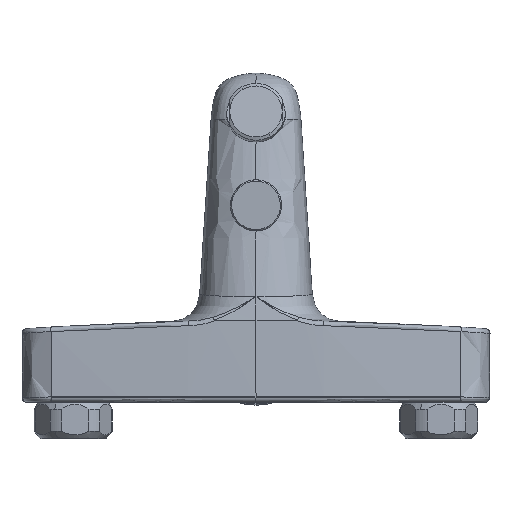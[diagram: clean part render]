
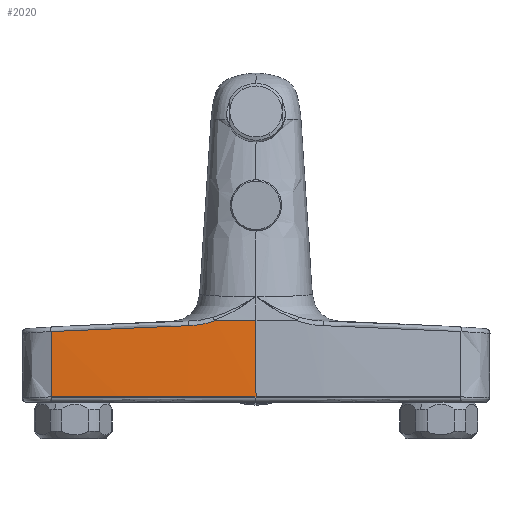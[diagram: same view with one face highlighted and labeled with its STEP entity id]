
A CAD part, front view. The second image highlights one B-rep face of the part: STEP entity #2020.
In plain terms, the highlighted conical face has half-angle 3.56 degrees and reference radius 871.868 mm.
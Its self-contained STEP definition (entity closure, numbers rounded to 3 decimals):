
#73 = EDGE_CURVE ( 'NONE', #29844, #8218, #19593, .T. ) ;
#834 = CARTESIAN_POINT ( 'NONE',  ( -5.501, -20.428, 79.563 ) ) ;
#1680 = CARTESIAN_POINT ( 'NONE',  ( -27.623, -20.172, 77.433 ) ) ;
#2020 = ADVANCED_FACE ( 'NONE', ( #7760 ), #5573, .T. ) ;
#2096 = CARTESIAN_POINT ( 'NONE',  ( 0., -22.368, 48.174 ) ) ;
#2352 = CARTESIAN_POINT ( 'NONE',  ( -25.784, -20.224, 77.47 ) ) ;
#2798 = AXIS2_PLACEMENT_3D ( 'NONE', #9360, #3683, #22981 ) ;
#3529 = CARTESIAN_POINT ( 'NONE',  ( -84.051, -17.381, 66.058 ) ) ;
#3683 = DIRECTION ( 'NONE',  ( 0., 0., -1. ) ) ;
#4485 = CARTESIAN_POINT ( 'NONE',  ( -65.281, -18.523, 76.256 ) ) ;
#5573 = CONICAL_SURFACE ( 'NONE', #2798, 871.868, 0.062 ) ;
#6367 = CARTESIAN_POINT ( 'NONE',  ( -84.002, -17.945, 57.109 ) ) ;
#7231 = CIRCLE ( 'NONE', #14004, 871.868 ) ;
#7760 = FACE_OUTER_BOUND ( 'NONE', #31600, .T. ) ;
#7894 = CARTESIAN_POINT ( 'NONE',  ( -20.429, -20.297, 78.362 ) ) ;
#8188 = DIRECTION ( 'NONE',  ( 0., 0., -1. ) ) ;
#8202 = CARTESIAN_POINT ( 'NONE',  ( 0., -20.416, 79.55 ) ) ;
#8218 = VERTEX_POINT ( 'NONE', #2096 ) ;
#8541 = B_SPLINE_CURVE_WITH_KNOTS ( 'NONE', 3,
 ( #29609, #3529, #6367, #25537 ),
 .UNSPECIFIED., .F., .F.,
 ( 4, 4 ),
 ( 0., 1. ),
 .UNSPECIFIED. ) ;
#9227 = B_SPLINE_CURVE_WITH_KNOTS ( 'NONE', 3,
 ( #21562, #32238, #24274, #7894, #26975, #10708, #29666, #13463, #32351, #16221, #35049, #18957, #2352, #21679 ),
 .UNSPECIFIED., .F., .F.,
 ( 4, 1, 1, 1, 1, 1, 1, 2, 2, 4 ),
 ( 0., 0.25, 0.375, 0.437, 0.469, 0.484, 0.492, 0.496, 0.5, 1. ),
 .UNSPECIFIED. ) ;
#9360 = CARTESIAN_POINT ( 'NONE',  ( -1.981, 849.498, 48.174 ) ) ;
#9440 = CARTESIAN_POINT ( 'NONE',  ( -16.505, -20.301, 79.48 ) ) ;
#10037 = CARTESIAN_POINT ( 'NONE',  ( -46.447, -19.64, 77.059 ) ) ;
#10629 = B_SPLINE_CURVE_WITH_KNOTS ( 'NONE', 3,
 ( #1680, #10037, #4485, #23741 ),
 .UNSPECIFIED., .F., .F.,
 ( 4, 4 ),
 ( 0., 1. ),
 .UNSPECIFIED. ) ;
#10708 = CARTESIAN_POINT ( 'NONE',  ( -21.6, -20.286, 78.111 ) ) ;
#11604 = B_SPLINE_CURVE_WITH_KNOTS ( 'NONE', 3,
 ( #11990, #834, #25757, #9440 ),
 .UNSPECIFIED., .F., .F.,
 ( 4, 4 ),
 ( 0., 1. ),
 .UNSPECIFIED. ) ;
#11990 = CARTESIAN_POINT ( 'NONE',  ( 0., -20.416, 79.55 ) ) ;
#12359 = CARTESIAN_POINT ( 'NONE',  ( -27.623, -20.172, 77.433 ) ) ;
#12589 = EDGE_CURVE ( 'NONE', #8218, #16844, #7231, .T. ) ;
#12642 = ORIENTED_EDGE ( 'NONE', *, *, #27753, .T. ) ;
#12673 = ORIENTED_EDGE ( 'NONE', *, *, #12589, .F. ) ;
#12708 = ORIENTED_EDGE ( 'NONE', *, *, #73, .F. ) ;
#12788 = ORIENTED_EDGE ( 'NONE', *, *, #30498, .T. ) ;
#12889 = ORIENTED_EDGE ( 'NONE', *, *, #17431, .T. ) ;
#12921 = ORIENTED_EDGE ( 'NONE', *, *, #18086, .T. ) ;
#13463 = CARTESIAN_POINT ( 'NONE',  ( -21.891, -20.283, 78.054 ) ) ;
#14004 = AXIS2_PLACEMENT_3D ( 'NONE', #24553, #8188, #27256 ) ;
#15425 = VERTEX_POINT ( 'NONE', #24803 ) ;
#16221 = CARTESIAN_POINT ( 'NONE',  ( -21.96, -20.283, 78.041 ) ) ;
#16844 = VERTEX_POINT ( 'NONE', #31679 ) ;
#17431 = EDGE_CURVE ( 'NONE', #24821, #20914, #9227, .T. ) ;
#18086 = EDGE_CURVE ( 'NONE', #20914, #15425, #10629, .T. ) ;
#18546 = CARTESIAN_POINT ( 'NONE',  ( -16.505, -20.301, 79.48 ) ) ;
#18957 = CARTESIAN_POINT ( 'NONE',  ( -23.905, -20.261, 77.671 ) ) ;
#19312 = CARTESIAN_POINT ( 'NONE',  ( 0., -22.368, 48.174 ) ) ;
#19431 = CARTESIAN_POINT ( 'NONE',  ( 0., -20.416, 79.55 ) ) ;
#19504 = CARTESIAN_POINT ( 'NONE',  ( 0., -21.067, 69.091 ) ) ;
#19553 = CARTESIAN_POINT ( 'NONE',  ( 0., -21.717, 58.633 ) ) ;
#19593 = B_SPLINE_CURVE_WITH_KNOTS ( 'NONE', 3,
 ( #19431, #19504, #19553, #19312 ),
 .UNSPECIFIED., .F., .F.,
 ( 4, 4 ),
 ( 0., 1. ),
 .UNSPECIFIED. ) ;
#20914 = VERTEX_POINT ( 'NONE', #12359 ) ;
#21562 = CARTESIAN_POINT ( 'NONE',  ( -16.505, -20.301, 79.48 ) ) ;
#21679 = CARTESIAN_POINT ( 'NONE',  ( -27.623, -20.172, 77.433 ) ) ;
#22981 = DIRECTION ( 'NONE',  ( 0., 1., 0. ) ) ;
#23741 = CARTESIAN_POINT ( 'NONE',  ( -84.091, -16.817, 75.023 ) ) ;
#24274 = CARTESIAN_POINT ( 'NONE',  ( -18.844, -20.305, 78.751 ) ) ;
#24553 = CARTESIAN_POINT ( 'NONE',  ( -1.981, 849.498, 48.174 ) ) ;
#24803 = CARTESIAN_POINT ( 'NONE',  ( -84.091, -16.817, 75.023 ) ) ;
#24821 = VERTEX_POINT ( 'NONE', #18546 ) ;
#25537 = CARTESIAN_POINT ( 'NONE',  ( -83.945, -18.509, 48.174 ) ) ;
#25757 = CARTESIAN_POINT ( 'NONE',  ( -11.003, -20.389, 79.54 ) ) ;
#26975 = CARTESIAN_POINT ( 'NONE',  ( -21.212, -20.29, 78.191 ) ) ;
#27256 = DIRECTION ( 'NONE',  ( -1., 0., 0. ) ) ;
#27753 = EDGE_CURVE ( 'NONE', #15425, #16844, #8541, .T. ) ;
#29609 = CARTESIAN_POINT ( 'NONE',  ( -84.091, -16.817, 75.023 ) ) ;
#29666 = CARTESIAN_POINT ( 'NONE',  ( -21.794, -20.284, 78.073 ) ) ;
#29844 = VERTEX_POINT ( 'NONE', #8202 ) ;
#30498 = EDGE_CURVE ( 'NONE', #29844, #24821, #11604, .T. ) ;
#31600 = EDGE_LOOP ( 'NONE', ( #12642, #12673, #12708, #12788, #12889, #12921 ) ) ;
#31679 = CARTESIAN_POINT ( 'NONE',  ( -83.945, -18.509, 48.174 ) ) ;
#32238 = CARTESIAN_POINT ( 'NONE',  ( -17.45, -20.305, 79.167 ) ) ;
#32351 = CARTESIAN_POINT ( 'NONE',  ( -21.932, -20.283, 78.047 ) ) ;
#35049 = CARTESIAN_POINT ( 'NONE',  ( -21.972, -20.282, 78.039 ) ) ;
